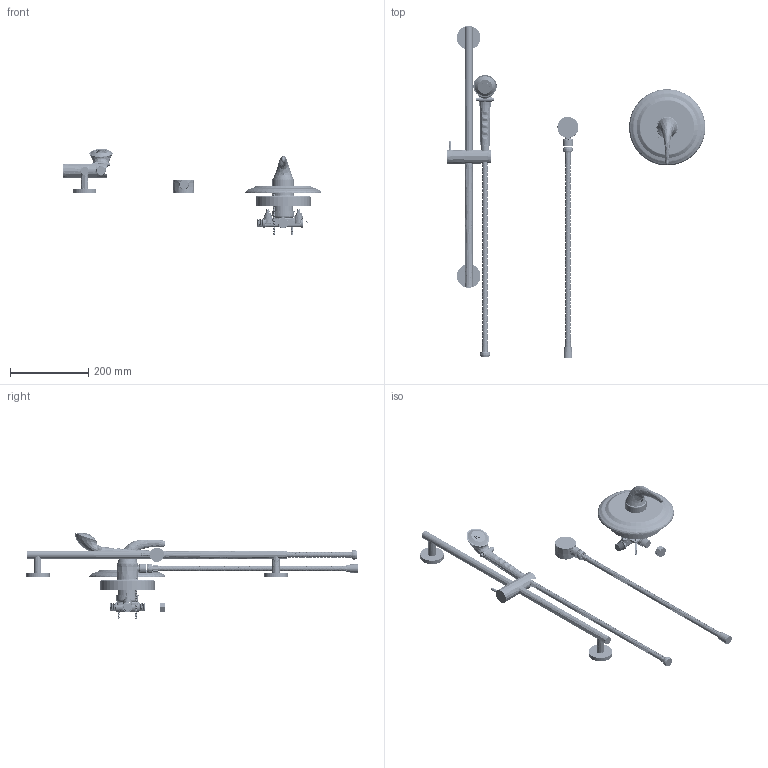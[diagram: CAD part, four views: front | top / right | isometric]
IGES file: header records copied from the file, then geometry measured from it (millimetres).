
Start section:  PTC IGES file: sh-tp7-00-021_REV032020.igs
Global section: file name: sh-tp7-00-021_REV032020.igs; native system: Creo Parametric by PTC Inc.; preprocessor: 2018500; author: dmisv; organization: Unknown; date: 20200320.112301; units: inch
Bounding box: 661.38 x 849.59 x 222.43 mm (x, y, z)
Surface area: 375901.6 mm2 (no closed solid volume)
Topology: 0 solids, 0 shells, 1588 faces, 15755 edges, 22086 vertices
Faces by surface type: revolution 839, bspline 733, extrusion 16
